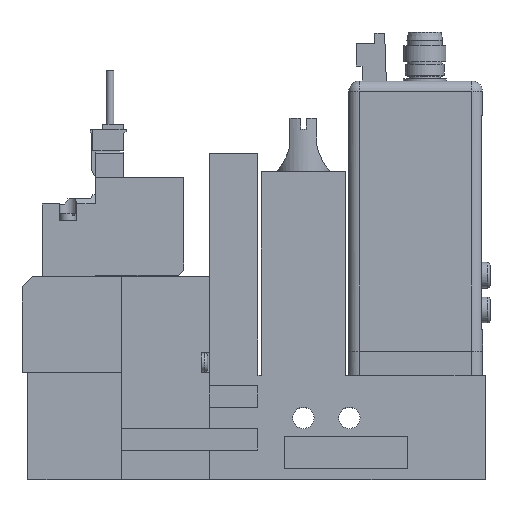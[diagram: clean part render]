
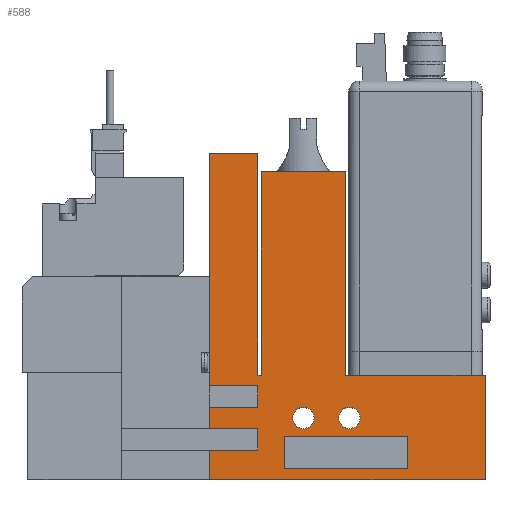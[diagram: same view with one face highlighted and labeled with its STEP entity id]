
A CAD part, top view. The second image highlights one B-rep face of the part: STEP entity #588.
In plain terms, the highlighted planar face has unit normal (0, 0, 1).
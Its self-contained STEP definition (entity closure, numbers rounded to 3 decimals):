
#588=ADVANCED_FACE('',(#1606,#1607,#1608,#1609),#1610,.T.);
#1606=FACE_OUTER_BOUND('',#3232,.T.);
#1607=FACE_BOUND('',#3233,.T.);
#1608=FACE_BOUND('',#3234,.T.);
#1609=FACE_BOUND('',#3235,.T.);
#1610=PLANE('',#3236);
#3232=EDGE_LOOP('',(#6473,#6474,#6475,#6476,#6477,#6478,#6479,#6480,#6481,#6482,#6483,#6484,#6485,#6486,#6487,#6488,#6489,#6490));
#3233=EDGE_LOOP('',(#6491,#6492,#6493,#6494));
#3234=EDGE_LOOP('',(#6495));
#3235=EDGE_LOOP('',(#6496));
#3236=AXIS2_PLACEMENT_3D('',#6497,#6498,#6499);
#6473=ORIENTED_EDGE('',*,*,#10757,.T.);
#6474=ORIENTED_EDGE('',*,*,#10901,.T.);
#6475=ORIENTED_EDGE('',*,*,#10883,.T.);
#6476=ORIENTED_EDGE('',*,*,#10884,.T.);
#6477=ORIENTED_EDGE('',*,*,#10860,.T.);
#6478=ORIENTED_EDGE('',*,*,#10902,.T.);
#6479=ORIENTED_EDGE('',*,*,#10854,.T.);
#6480=ORIENTED_EDGE('',*,*,#10903,.T.);
#6481=ORIENTED_EDGE('',*,*,#10904,.T.);
#6482=ORIENTED_EDGE('',*,*,#10905,.T.);
#6483=ORIENTED_EDGE('',*,*,#10906,.T.);
#6484=ORIENTED_EDGE('',*,*,#10776,.T.);
#6485=ORIENTED_EDGE('',*,*,#10875,.T.);
#6486=ORIENTED_EDGE('',*,*,#10907,.T.);
#6487=ORIENTED_EDGE('',*,*,#10908,.T.);
#6488=ORIENTED_EDGE('',*,*,#10909,.T.);
#6489=ORIENTED_EDGE('',*,*,#10910,.T.);
#6490=ORIENTED_EDGE('',*,*,#10911,.T.);
#6491=ORIENTED_EDGE('',*,*,#10912,.T.);
#6492=ORIENTED_EDGE('',*,*,#10762,.T.);
#6493=ORIENTED_EDGE('',*,*,#10913,.T.);
#6494=ORIENTED_EDGE('',*,*,#10836,.T.);
#6495=ORIENTED_EDGE('',*,*,#10857,.T.);
#6496=ORIENTED_EDGE('',*,*,#10864,.T.);
#6497=CARTESIAN_POINT('',(0.0,0.0,10.0));
#6498=DIRECTION('',(0.0,0.0,1.0));
#6499=DIRECTION('',(1.0,0.0,0.0));
#10757=EDGE_CURVE('',#13153,#13151,#13154,.T.);
#10762=EDGE_CURVE('',#13156,#13161,#13163,.T.);
#10776=EDGE_CURVE('',#13190,#13188,#13191,.T.);
#10836=EDGE_CURVE('',#13294,#13299,#13301,.T.);
#10854=EDGE_CURVE('',#13325,#13330,#13332,.T.);
#10857=EDGE_CURVE('',#13335,#13335,#13336,.T.);
#10860=EDGE_CURVE('',#13341,#13339,#13342,.T.);
#10864=EDGE_CURVE('',#13348,#13348,#13349,.T.);
#10875=EDGE_CURVE('',#13188,#13364,#13366,.T.);
#10883=EDGE_CURVE('',#13373,#13375,#13377,.T.);
#10884=EDGE_CURVE('',#13375,#13341,#13378,.T.);
#10901=EDGE_CURVE('',#13151,#13373,#13402,.T.);
#10902=EDGE_CURVE('',#13339,#13325,#13403,.T.);
#10903=EDGE_CURVE('',#13330,#13404,#13405,.T.);
#10904=EDGE_CURVE('',#13404,#13406,#13407,.T.);
#10905=EDGE_CURVE('',#13406,#13408,#13409,.T.);
#10906=EDGE_CURVE('',#13408,#13190,#13410,.T.);
#10907=EDGE_CURVE('',#13364,#13411,#13412,.T.);
#10908=EDGE_CURVE('',#13411,#13413,#13414,.T.);
#10909=EDGE_CURVE('',#13413,#13415,#13416,.T.);
#10910=EDGE_CURVE('',#13415,#13417,#13418,.T.);
#10911=EDGE_CURVE('',#13417,#13153,#13419,.T.);
#10912=EDGE_CURVE('',#13299,#13156,#13420,.T.);
#10913=EDGE_CURVE('',#13161,#13294,#13421,.T.);
#13151=VERTEX_POINT('',#16823);
#13153=VERTEX_POINT('',#16826);
#13154=LINE('',#16827,#16828);
#13156=VERTEX_POINT('',#16831);
#13161=VERTEX_POINT('',#16838);
#13163=LINE('',#16841,#16842);
#13188=VERTEX_POINT('',#16877);
#13190=VERTEX_POINT('',#16880);
#13191=LINE('',#16881,#16882);
#13294=VERTEX_POINT('',#17037);
#13299=VERTEX_POINT('',#17044);
#13301=LINE('',#17047,#17048);
#13325=VERTEX_POINT('',#17084);
#13330=VERTEX_POINT('',#17091);
#13332=LINE('',#17094,#17095);
#13335=VERTEX_POINT('',#17100);
#13336=CIRCLE('',#17101,2.0);
#13339=VERTEX_POINT('',#17105);
#13341=VERTEX_POINT('',#17108);
#13342=LINE('',#17109,#17110);
#13348=VERTEX_POINT('',#17117);
#13349=CIRCLE('',#17118,2.0);
#13364=VERTEX_POINT('',#17141);
#13366=LINE('',#17144,#17145);
#13373=VERTEX_POINT('',#17157);
#13375=VERTEX_POINT('',#17160);
#13377=LINE('',#17163,#17164);
#13378=LINE('',#17165,#17166);
#13402=LINE('',#17218,#17219);
#13403=LINE('',#17220,#17221);
#13404=VERTEX_POINT('',#17222);
#13405=LINE('',#17223,#17224);
#13406=VERTEX_POINT('',#17225);
#13407=LINE('',#17226,#17227);
#13408=VERTEX_POINT('',#17228);
#13409=LINE('',#17229,#17230);
#13410=LINE('',#17231,#17232);
#13411=VERTEX_POINT('',#17233);
#13412=LINE('',#17234,#17235);
#13413=VERTEX_POINT('',#17236);
#13414=LINE('',#17237,#17238);
#13415=VERTEX_POINT('',#17239);
#13416=LINE('',#17240,#17241);
#13417=VERTEX_POINT('',#17242);
#13418=LINE('',#17243,#17244);
#13419=LINE('',#17245,#17246);
#13420=LINE('',#17247,#17248);
#13421=LINE('',#17249,#17250);
#16823=CARTESIAN_POINT('',(35.1,17.5,10.0));
#16826=CARTESIAN_POINT('',(35.1,61.0,10.0));
#16827=CARTESIAN_POINT('',(35.1,61.0,10.0));
#16828=VECTOR('',#20743,1.0);
#16831=CARTESIAN_POINT('',(49.1,8.0,10.0));
#16838=CARTESIAN_POINT('',(72.1,8.0,10.0));
#16841=CARTESIAN_POINT('',(0.0,8.0,10.0));
#16842=VECTOR('',#20748,1.0);
#16877=CARTESIAN_POINT('',(60.45,19.5,10.0));
#16880=CARTESIAN_POINT('',(86.6,19.5,10.0));
#16881=CARTESIAN_POINT('',(86.6,19.5,10.0));
#16882=VECTOR('',#20766,1.0);
#17037=CARTESIAN_POINT('',(72.1,2.0,10.0));
#17044=CARTESIAN_POINT('',(49.1,2.0,10.0));
#17047=CARTESIAN_POINT('',(0.0,2.0,10.0));
#17048=VECTOR('',#20834,1.0);
#17084=CARTESIAN_POINT('',(44.1,9.5,10.0));
#17091=CARTESIAN_POINT('',(44.1,5.5,10.0));
#17094=CARTESIAN_POINT('',(44.1,0.0,10.0));
#17095=VECTOR('',#20856,1.0);
#17100=CARTESIAN_POINT('',(54.6,11.5,10.0));
#17101=AXIS2_PLACEMENT_3D('',#20859,#20860,#20861);
#17105=CARTESIAN_POINT('',(35.1,9.5,10.0));
#17108=CARTESIAN_POINT('',(35.1,13.5,10.0));
#17109=CARTESIAN_POINT('',(35.1,0.0,10.0));
#17110=VECTOR('',#20864,1.0);
#17117=CARTESIAN_POINT('',(63.2,11.5,10.0));
#17118=AXIS2_PLACEMENT_3D('',#20872,#20873,#20874);
#17141=CARTESIAN_POINT('',(60.45,57.5,10.0));
#17144=CARTESIAN_POINT('',(60.45,19.5,10.0));
#17145=VECTOR('',#20887,1.0);
#17157=CARTESIAN_POINT('',(44.1,17.5,10.0));
#17160=CARTESIAN_POINT('',(44.1,13.5,10.0));
#17163=CARTESIAN_POINT('',(44.1,0.0,10.0));
#17164=VECTOR('',#20895,1.0);
#17165=CARTESIAN_POINT('',(0.0,13.5,10.0));
#17166=VECTOR('',#20896,1.0);
#17218=CARTESIAN_POINT('',(0.0,17.5,10.0));
#17219=VECTOR('',#20929,1.0);
#17220=CARTESIAN_POINT('',(0.0,9.5,10.0));
#17221=VECTOR('',#20930,1.0);
#17222=CARTESIAN_POINT('',(35.1,5.5,10.0));
#17223=CARTESIAN_POINT('',(0.0,5.5,10.0));
#17224=VECTOR('',#20931,1.0);
#17225=CARTESIAN_POINT('',(35.1,0.0,10.0));
#17226=CARTESIAN_POINT('',(35.1,0.0,10.0));
#17227=VECTOR('',#20932,1.0);
#17228=CARTESIAN_POINT('',(86.6,0.0,10.0));
#17229=CARTESIAN_POINT('',(18.6,0.0,10.0));
#17230=VECTOR('',#20933,1.0);
#17231=CARTESIAN_POINT('',(86.6,0.0,10.0));
#17232=VECTOR('',#20934,1.0);
#17233=CARTESIAN_POINT('',(44.75,57.5,10.0));
#17234=CARTESIAN_POINT('',(60.45,57.5,10.0));
#17235=VECTOR('',#20935,1.0);
#17236=CARTESIAN_POINT('',(44.75,19.5,10.0));
#17237=CARTESIAN_POINT('',(44.75,57.5,10.0));
#17238=VECTOR('',#20936,1.0);
#17239=CARTESIAN_POINT('',(44.1,19.5,10.0));
#17240=CARTESIAN_POINT('',(44.75,19.5,10.0));
#17241=VECTOR('',#20937,1.0);
#17242=CARTESIAN_POINT('',(44.1,61.0,10.0));
#17243=CARTESIAN_POINT('',(44.1,19.5,10.0));
#17244=VECTOR('',#20938,1.0);
#17245=CARTESIAN_POINT('',(44.1,61.0,10.0));
#17246=VECTOR('',#20939,1.0);
#17247=CARTESIAN_POINT('',(49.1,0.0,10.0));
#17248=VECTOR('',#20940,1.0);
#17249=CARTESIAN_POINT('',(72.1,0.0,10.0));
#17250=VECTOR('',#20941,1.0);
#20743=DIRECTION('',(0.0,-1.0,0.0));
#20748=DIRECTION('',(1.0,0.0,0.0));
#20766=DIRECTION('',(-1.0,0.0,0.0));
#20834=DIRECTION('',(-1.0,0.0,0.0));
#20856=DIRECTION('',(0.0,-1.0,0.0));
#20859=CARTESIAN_POINT('',(52.6,11.5,10.0));
#20860=DIRECTION('',(0.0,0.0,-1.0));
#20861=DIRECTION('',(1.0,0.0,0.0));
#20864=DIRECTION('',(0.0,-1.0,0.0));
#20872=CARTESIAN_POINT('',(61.2,11.5,10.0));
#20873=DIRECTION('',(0.0,0.0,-1.0));
#20874=DIRECTION('',(1.0,0.0,0.0));
#20887=DIRECTION('',(0.0,1.0,0.0));
#20895=DIRECTION('',(0.0,-1.0,0.0));
#20896=DIRECTION('',(-1.0,0.0,0.0));
#20929=DIRECTION('',(1.0,0.0,0.0));
#20930=DIRECTION('',(1.0,0.0,0.0));
#20931=DIRECTION('',(-1.0,0.0,0.0));
#20932=DIRECTION('',(0.0,-1.0,0.0));
#20933=DIRECTION('',(1.0,0.0,0.0));
#20934=DIRECTION('',(0.0,1.0,0.0));
#20935=DIRECTION('',(-1.0,0.0,0.0));
#20936=DIRECTION('',(0.0,-1.0,0.0));
#20937=DIRECTION('',(-1.0,0.0,0.0));
#20938=DIRECTION('',(0.0,1.0,0.0));
#20939=DIRECTION('',(-1.0,0.0,0.0));
#20940=DIRECTION('',(0.0,1.0,0.0));
#20941=DIRECTION('',(0.0,-1.0,0.0));
